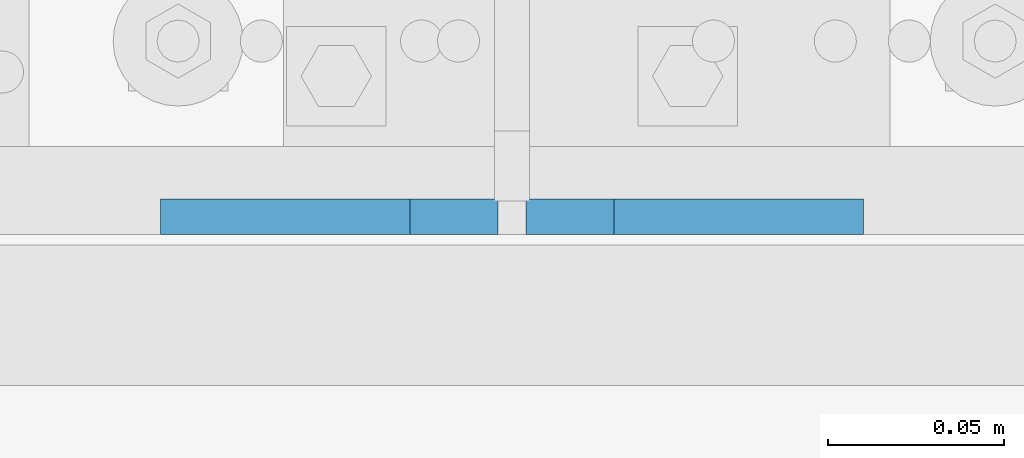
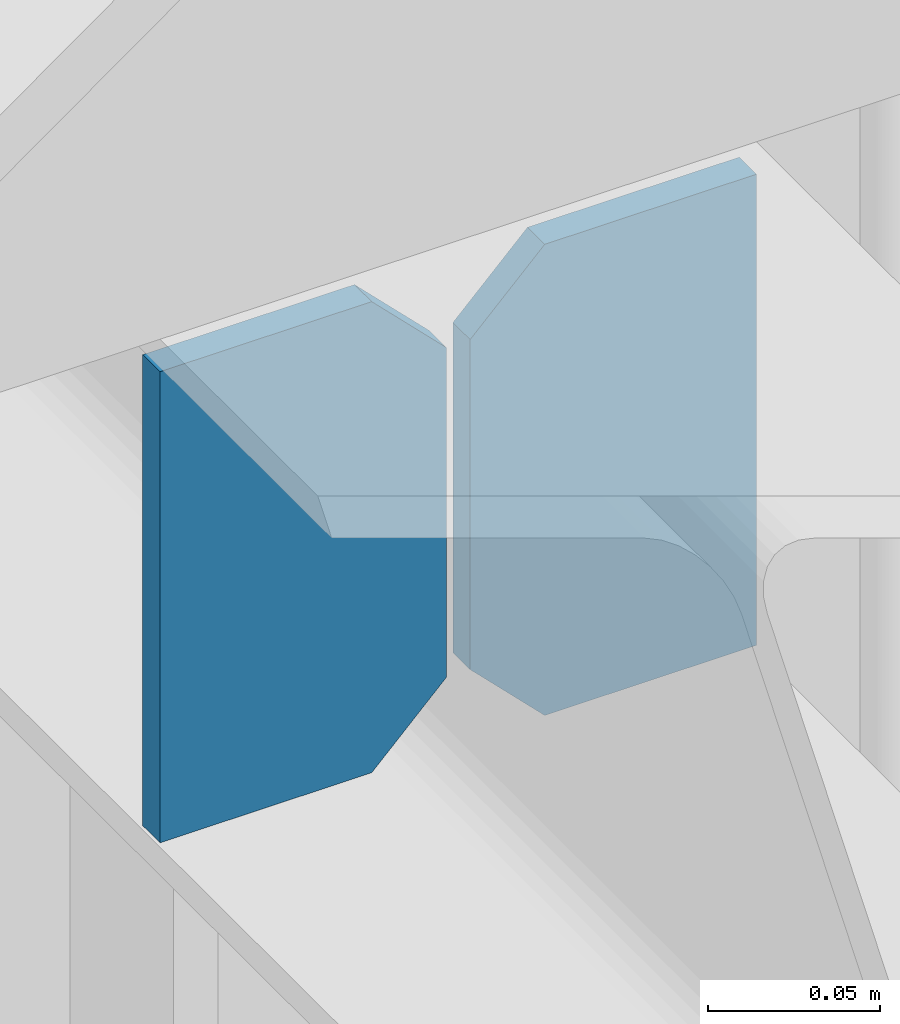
# One storey, part 161 of 825: 2 plates, 4 openings.
"""IFC2X3 building model written with IfcOpenShell, lengths in millimetres."""

from ifc_helpers import new_model, entity, si_unit, converted_unit, frame, origin, origin_with_axes, place, context, project, spatial, polyline, outline, extrude, material, layer, layer_set, element, save


model = new_model("IFC2X3")

# Units and contexts
model_context = context("Model", 3, precision=1e-09, world=origin_with_axes())
ifc_project = project(units=[si_unit("LENGTHUNIT", "METRE", prefix="MILLI"), si_unit("AREAUNIT", "SQUARE_METRE"), si_unit("VOLUMEUNIT", "CUBIC_METRE"), converted_unit("PLANEANGLEUNIT", "DEGREE", entity("IfcPlaneAngleMeasure", 0.01745329), si_unit("PLANEANGLEUNIT", "RADIAN"), dimensions=[0, 0, 0, 0, 0, 0, 0])], contexts=[model_context])

# Site, building, storey
site_placement = place(None, origin_with_axes())
site = spatial("IfcSite", under=ifc_project, at=site_placement, Name="Cnopf'sche Kinderklinik", CompositionType="ELEMENT")
building_placement = place(site_placement, origin_with_axes())
building = spatial("IfcBuilding", under=site, at=building_placement, Name="Struktur 1", CompositionType="ELEMENT")
storey_placement = place(building_placement, origin_with_axes())
storey = spatial("IfcBuildingStorey", under=building, at=storey_placement, Name="Default Storey", CompositionType="ELEMENT", Elevation=0.0)

# Plate, openings
ifc_material = material(Name="S235JR")
ifc_layer = layer(ifc_material, 10.0)
ifc_layer_set = layer_set([ifc_layer], Name="S235JR")
plate_1_placement = place(None, frame((4852.713402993, 5736.736971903, 17415.499999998), z_axis=(0.0, 1.0, 0.0), x_axis=(-1.0, 0.0, 0.0)))
plate_1 = element("IfcPlate", 1, at=plate_1_placement, inside=storey, material=ifc_layer_set, Name="Stiffener#1", ObjectType="Stiffener#1", context=model_context, shape_type="SweptSolid", body=[
    extrude(outline(polyline([(0.0, 0.0), (96.0, 0.0), (96.0, 167.0), (0.0, 167.0), (0.0, 0.0)])), origin_with_axes(), (0.0, 0.0, 1.0), 10.0),
])
opening_1_placement = place(plate_1_placement, frame((0.0, 0.0, -0.01), z_axis=(0.0, 0.0, 1.0), x_axis=(1.0, 0.0, 0.0)))
element("IfcOpeningElement", 2, at=opening_1_placement, cuts=plate_1, ObjectType="Opening", context=model_context, shape_type="SweptSolid", body=[
    extrude(outline(polyline([(0.0, 167.0), (0.0, 142.0), (25.0, 167.0), (0.0, 167.0)])), origin(), (0.0, 0.0, 1.0), 10.02),
])
opening_2_placement = place(plate_1_placement, frame((0.0, 0.0, -0.01), z_axis=(0.0, 0.0, 1.0), x_axis=(1.0, 0.0, 0.0)))
element("IfcOpeningElement", 3, at=opening_2_placement, cuts=plate_1, ObjectType="Opening", context=model_context, shape_type="SweptSolid", body=[
    extrude(outline(polyline([(0.0, 0.0), (25.0, 0.0), (0.0, 25.0), (0.0, 0.0)])), origin(), (0.0, 0.0, 1.0), 10.02),
])

plate_2_placement = place(None, frame((4956.713402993, 5736.736971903, 17415.499999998), z_axis=(0.0, 1.0, 0.0), x_axis=(-1.0, 0.0, 0.0)))
plate_2 = element("IfcPlate", 4, at=plate_2_placement, inside=storey, material=ifc_layer_set, Name="Stiffener#0", ObjectType="Stiffener#0", context=model_context, shape_type="SweptSolid", body=[
    extrude(outline(polyline([(0.0, 0.0), (96.0, 0.0), (96.0, 167.0), (0.0, 167.0), (0.0, 0.0)])), origin_with_axes(), (0.0, 0.0, 1.0), 10.0),
])
opening_3_placement = place(plate_2_placement, frame((0.0, 0.0, -0.01), z_axis=(0.0, 0.0, 1.0), x_axis=(1.0, 0.0, 0.0)))
element("IfcOpeningElement", 5, at=opening_3_placement, cuts=plate_2, ObjectType="Opening", context=model_context, shape_type="SweptSolid", body=[
    extrude(outline(polyline([(96.0, 167.0), (71.0, 167.0), (96.0, 142.0), (96.0, 167.0)])), origin(), (0.0, 0.0, 1.0), 10.02),
])
opening_4_placement = place(plate_2_placement, frame((0.0, 0.0, -0.01), z_axis=(0.0, 0.0, 1.0), x_axis=(1.0, 0.0, 0.0)))
element("IfcOpeningElement", 6, at=opening_4_placement, cuts=plate_2, ObjectType="Opening", context=model_context, shape_type="SweptSolid", body=[
    extrude(outline(polyline([(96.0, 0.0), (96.0, 25.0), (71.0, 0.0), (96.0, 0.0)])), origin(), (0.0, 0.0, 1.0), 10.02),
])

save(model, "model.ifc")
